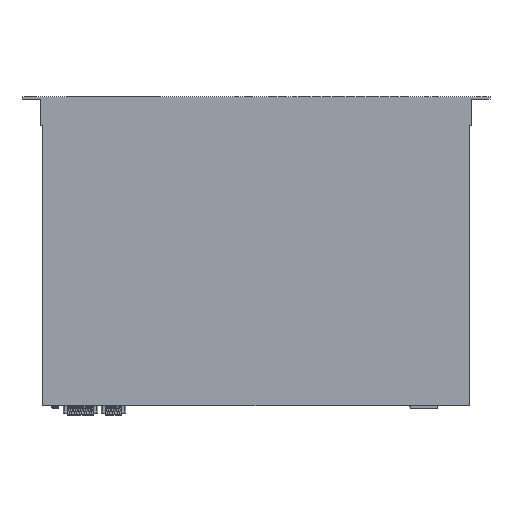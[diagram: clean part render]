
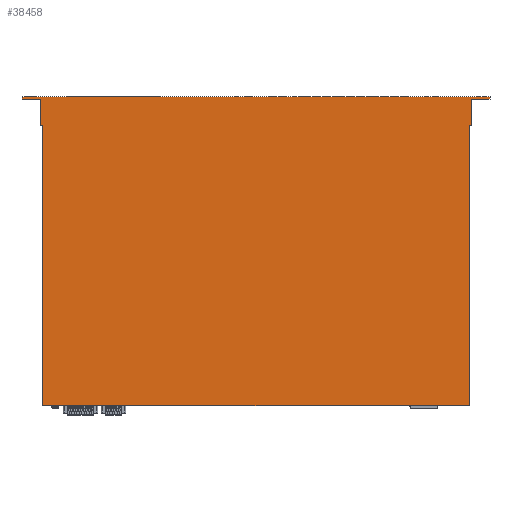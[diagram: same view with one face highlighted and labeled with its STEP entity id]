
A CAD part, top view. The second image highlights one B-rep face of the part: STEP entity #38458.
In plain terms, the highlighted planar face has unit normal (0, 0, 1).
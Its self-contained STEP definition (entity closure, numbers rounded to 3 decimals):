
#3946=CARTESIAN_POINT('',(-21.3,0.,44.));
#3947=VERTEX_POINT('',#3946);
#3954=CARTESIAN_POINT('',(-461.3,0.,44.));
#3955=VERTEX_POINT('',#3954);
#3956=CARTESIAN_POINT('',(-461.3,0.,44.));
#3957=DIRECTION('',(1.,0.,0.));
#3958=VECTOR('',#3957,440.);
#3959=LINE('',#3956,#3958);
#3960=EDGE_CURVE('',#3955,#3947,#3959,.T.);
#37580=CARTESIAN_POINT('',(-482.6,316.3,44.));
#37581=VERTEX_POINT('',#37580);
#37588=CARTESIAN_POINT('',(-482.6,318.8,44.));
#37589=VERTEX_POINT('',#37588);
#37590=CARTESIAN_POINT('',(-482.6,316.3,44.));
#37591=DIRECTION('',(-0.,1.,-0.));
#37592=VECTOR('',#37591,2.5);
#37593=LINE('',#37590,#37592);
#37594=EDGE_CURVE('',#37581,#37589,#37593,.T.);
#37876=CARTESIAN_POINT('',(0.,316.3,44.));
#37877=VERTEX_POINT('',#37876);
#37885=CARTESIAN_POINT('',(0.,318.8,44.));
#37886=VERTEX_POINT('',#37885);
#37893=CARTESIAN_POINT('',(0.,318.8,44.));
#37894=DIRECTION('',(0.,-1.,0.));
#37895=VECTOR('',#37894,2.5);
#37896=LINE('',#37893,#37895);
#37897=EDGE_CURVE('',#37886,#37877,#37896,.T.);
#38219=CARTESIAN_POINT('',(0.,318.8,44.));
#38220=DIRECTION('',(-1.,-0.,-0.));
#38221=VECTOR('',#38220,482.6);
#38222=LINE('',#38219,#38221);
#38223=EDGE_CURVE('',#37886,#37589,#38222,.T.);
#38260=CARTESIAN_POINT('',(-463.8,316.3,44.));
#38261=VERTEX_POINT('',#38260);
#38269=CARTESIAN_POINT('',(-463.8,288.8,44.));
#38270=VERTEX_POINT('',#38269);
#38277=CARTESIAN_POINT('',(-463.8,316.3,44.));
#38278=DIRECTION('',(0.,-1.,0.));
#38279=VECTOR('',#38278,27.5);
#38280=LINE('',#38277,#38279);
#38281=EDGE_CURVE('',#38261,#38270,#38280,.T.);
#38294=CARTESIAN_POINT('',(-482.6,316.3,44.));
#38295=DIRECTION('',(1.,0.,0.));
#38296=VECTOR('',#38295,18.8);
#38297=LINE('',#38294,#38296);
#38298=EDGE_CURVE('',#37581,#38261,#38297,.T.);
#38322=CARTESIAN_POINT('',(-18.8,316.3,44.));
#38323=VERTEX_POINT('',#38322);
#38324=CARTESIAN_POINT('',(0.,316.3,44.));
#38325=DIRECTION('',(-1.,-0.,-0.));
#38326=VECTOR('',#38325,18.8);
#38327=LINE('',#38324,#38326);
#38328=EDGE_CURVE('',#37877,#38323,#38327,.T.);
#38360=CARTESIAN_POINT('',(-18.8,288.8,44.));
#38361=VERTEX_POINT('',#38360);
#38362=CARTESIAN_POINT('',(-18.8,316.3,44.));
#38363=DIRECTION('',(0.,-1.,0.));
#38364=VECTOR('',#38363,27.5);
#38365=LINE('',#38362,#38364);
#38366=EDGE_CURVE('',#38323,#38361,#38365,.T.);
#38384=CARTESIAN_POINT('',(-21.3,288.8,44.));
#38385=VERTEX_POINT('',#38384);
#38386=CARTESIAN_POINT('',(-21.3,0.,44.));
#38387=DIRECTION('',(-0.,1.,-0.));
#38388=VECTOR('',#38387,288.8);
#38389=LINE('',#38386,#38388);
#38390=EDGE_CURVE('',#3947,#38385,#38389,.T.);
#38410=CARTESIAN_POINT('',(-461.3,288.8,44.));
#38411=VERTEX_POINT('',#38410);
#38412=CARTESIAN_POINT('',(-461.3,288.8,44.));
#38413=DIRECTION('',(0.,-1.,0.));
#38414=VECTOR('',#38413,288.8);
#38415=LINE('',#38412,#38414);
#38416=EDGE_CURVE('',#38411,#3955,#38415,.T.);
#38429=CARTESIAN_POINT('',(-241.3,158.65,44.));
#38430=DIRECTION('',(0.,-0.,-1.));
#38431=DIRECTION('',(-1.,-0.,-0.));
#38432=AXIS2_PLACEMENT_3D('',#38429,#38430,#38431);
#38433=PLANE('',#38432);
#38434=ORIENTED_EDGE('',*,*,#38223,.T.);
#38435=ORIENTED_EDGE('',*,*,#37594,.F.);
#38436=ORIENTED_EDGE('',*,*,#38298,.T.);
#38437=ORIENTED_EDGE('',*,*,#38281,.T.);
#38438=CARTESIAN_POINT('',(-463.8,288.8,44.));
#38439=DIRECTION('',(1.,0.,0.));
#38440=VECTOR('',#38439,2.5);
#38441=LINE('',#38438,#38440);
#38442=EDGE_CURVE('',#38270,#38411,#38441,.T.);
#38443=ORIENTED_EDGE('',*,*,#38442,.T.);
#38444=ORIENTED_EDGE('',*,*,#38416,.T.);
#38445=ORIENTED_EDGE('',*,*,#3960,.T.);
#38446=ORIENTED_EDGE('',*,*,#38390,.T.);
#38447=CARTESIAN_POINT('',(-18.8,288.8,44.));
#38448=DIRECTION('',(-1.,-0.,-0.));
#38449=VECTOR('',#38448,2.5);
#38450=LINE('',#38447,#38449);
#38451=EDGE_CURVE('',#38361,#38385,#38450,.T.);
#38452=ORIENTED_EDGE('',*,*,#38451,.F.);
#38453=ORIENTED_EDGE('',*,*,#38366,.F.);
#38454=ORIENTED_EDGE('',*,*,#38328,.F.);
#38455=ORIENTED_EDGE('',*,*,#37897,.F.);
#38456=EDGE_LOOP('',(#38434,#38435,#38436,#38437,#38443,#38444,#38445,#38446,#38452,#38453,#38454,#38455));
#38457=FACE_BOUND('',#38456,.T.);
#38458=ADVANCED_FACE('',(#38457),#38433,.F.);
